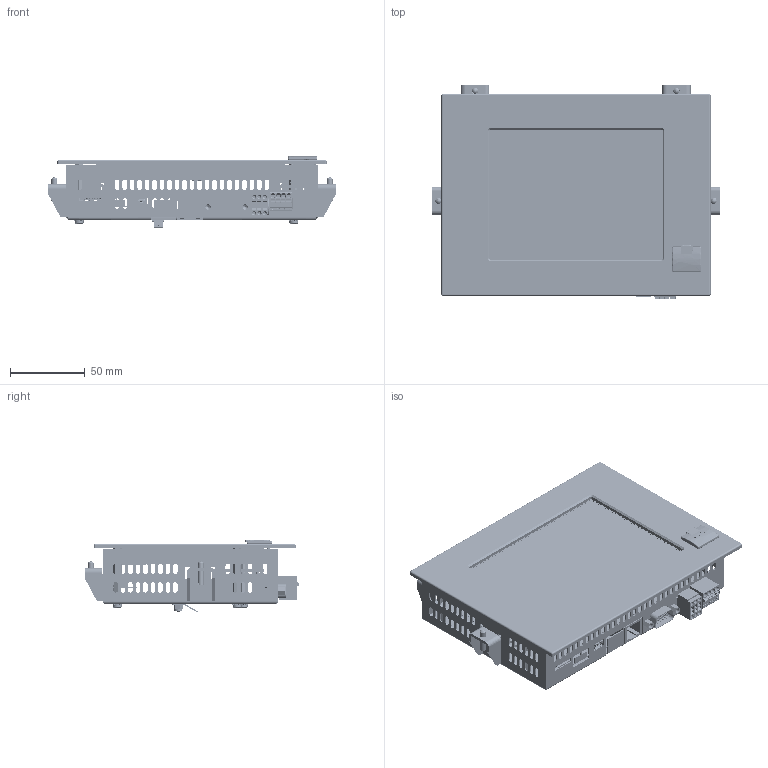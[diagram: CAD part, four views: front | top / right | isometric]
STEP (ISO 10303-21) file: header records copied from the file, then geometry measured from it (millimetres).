
FILE_DESCRIPTION (( 'STEP AP203' ), '1' );
FILE_NAME ('extern3d_12-230-0555_ETV555.STEP', '2011-04-28T12:22:44', ( 'Anwender' ), ( 'SIGMATEK GMBH & CO KG' ), 'SwSTEP 2.0', 'SolidWorks 2009', '' );
FILE_SCHEMA (( 'CONFIG_CONTROL_DESIGN' ));
Length unit declared in the file: millimetre
Products named in the file (1): extern3d_12-230-0555_ETV555
Bounding box: 192 x 143.23 x 48.74 mm (x, y, z)
Surface area: 208723.6 mm2 (no closed solid volume)
Topology: 0 solids, 60 shells, 7992 faces, 22941 edges, 14919 vertices
Faces by surface type: plane 5261, cylinder 2151, bspline 400, cone 176, torus 4
Full cylindrical faces by diameter (mm): 0.9 x1
Entity records: 287406 total; most frequent: CARTESIAN_POINT 80342, ORIENTED_EDGE 45724, DIRECTION 39274, EDGE_CURVE 22888, VECTOR 16236, LINE 16236, VERTEX_POINT 14915, AXIS2_PLACEMENT_3D 11519
